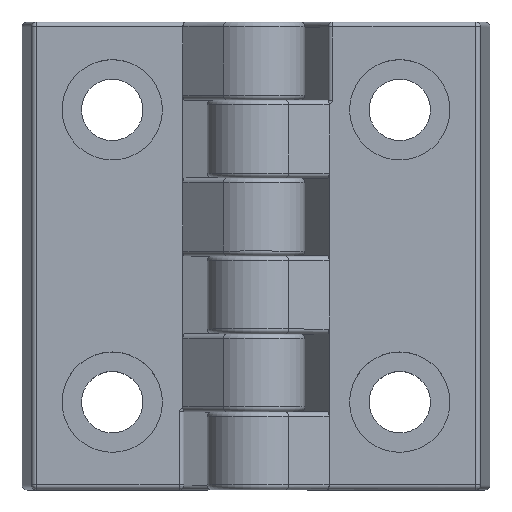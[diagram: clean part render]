
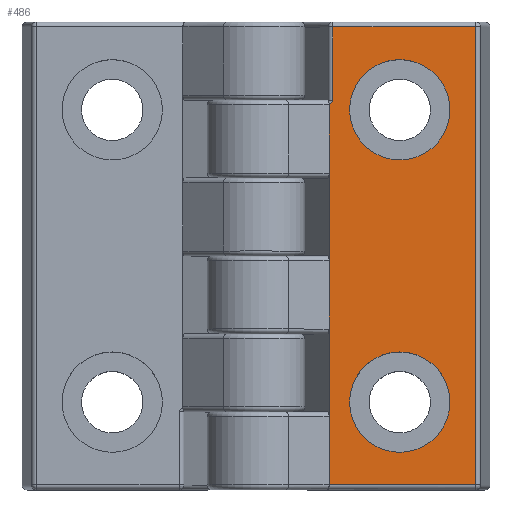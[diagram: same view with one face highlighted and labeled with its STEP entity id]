
A CAD part, top view. The second image highlights one B-rep face of the part: STEP entity #486.
In plain terms, the highlighted planar face has unit normal (0, 0, 1).
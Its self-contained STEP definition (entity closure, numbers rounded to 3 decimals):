
#486=ADVANCED_FACE('',(#1095,#1097,#1099),#1101,.T.);
#1095=FACE_BOUND('',#1096,.T.);
#1096=EDGE_LOOP('',(#1553,#1554,#1555,#1556,#1557,#1558,#1559,#1560,#1561,#1562));
#1097=FACE_BOUND('',#1098,.T.);
#1098=EDGE_LOOP('',(#1563));
#1099=FACE_BOUND('',#1100,.T.);
#1100=EDGE_LOOP('',(#1564));
#1101=PLANE('',#1102);
#1102=AXIS2_PLACEMENT_3D('',#1103,#1104,#1105);
#1103=CARTESIAN_POINT('',(-16.5,0.,10.1));
#1104=DIRECTION('',(0.,0.,1.));
#1105=DIRECTION('',(1.,0.,0.));
#1553=ORIENTED_EDGE('',*,*,#1768,.T.);
#1554=ORIENTED_EDGE('',*,*,#1769,.T.);
#1555=ORIENTED_EDGE('',*,*,#1770,.F.);
#1556=ORIENTED_EDGE('',*,*,#1732,.T.);
#1557=ORIENTED_EDGE('',*,*,#1771,.F.);
#1558=ORIENTED_EDGE('',*,*,#1722,.T.);
#1559=ORIENTED_EDGE('',*,*,#1772,.F.);
#1560=ORIENTED_EDGE('',*,*,#1755,.T.);
#1561=ORIENTED_EDGE('',*,*,#1752,.T.);
#1562=ORIENTED_EDGE('',*,*,#1749,.F.);
#1563=ORIENTED_EDGE('',*,*,#1745,.T.);
#1564=ORIENTED_EDGE('',*,*,#1746,.T.);
#1722=EDGE_CURVE('',#1887,#1884,#1888,.F.);
#1732=EDGE_CURVE('',#1905,#1902,#1906,.F.);
#1745=EDGE_CURVE('',#1927,#1927,#1928,.F.);
#1746=EDGE_CURVE('',#1929,#1929,#1930,.F.);
#1749=EDGE_CURVE('',#1931,#1934,#1935,.T.);
#1752=EDGE_CURVE('',#1938,#1934,#1939,.T.);
#1755=EDGE_CURVE('',#1942,#1938,#1943,.T.);
#1768=EDGE_CURVE('',#1931,#1961,#1962,.F.);
#1769=EDGE_CURVE('',#1961,#1963,#1964,.F.);
#1770=EDGE_CURVE('',#1905,#1963,#1965,.T.);
#1771=EDGE_CURVE('',#1887,#1902,#1966,.T.);
#1772=EDGE_CURVE('',#1942,#1884,#1967,.T.);
#1884=VERTEX_POINT('',#2193);
#1887=VERTEX_POINT('',#2199);
#1888=LINE('',#2200,#2201);
#1902=VERTEX_POINT('',#2235);
#1905=VERTEX_POINT('',#2241);
#1906=LINE('',#2242,#2243);
#1927=VERTEX_POINT('',#2294);
#1928=CIRCLE('',#2295,5.15);
#1929=VERTEX_POINT('',#2299);
#1930=CIRCLE('',#2300,5.15);
#1931=VERTEX_POINT('',#2304);
#1934=VERTEX_POINT('',#2313);
#1935=LINE('',#2314,#2315);
#1938=VERTEX_POINT('',#2325);
#1939=LINE('',#2326,#2327);
#1942=VERTEX_POINT('',#2337);
#1943=LINE('',#2338,#2339);
#1961=VERTEX_POINT('',#2389);
#1962=LINE('',#2390,#2391);
#1963=VERTEX_POINT('',#2393);
#1964=B_SPLINE_CURVE_WITH_KNOTS('',3,
(#2394,#2395,#2396,#2397,#2398,#2399,#2400,#2401,#2402,#2403,#2404,#2405,#2406,#2407,
#2408,#2409,#2410,#2411,#2412,#2413,#2414,#2415,#2416,#2417),
.UNSPECIFIED.,.F.,.F.,
(4,2,2,2,2,2,2,2,2,2,2,4),
(0.,0.027,0.128,0.229,0.329,0.428,
0.526,0.623,0.719,0.813,0.907,
1.),
.UNSPECIFIED.);
#1965=LINE('',#2418,#2419);
#1966=LINE('',#2421,#2422);
#1967=LINE('',#2424,#2425);
#2193=CARTESIAN_POINT('',(-16.5,7.5,10.1));
#2199=CARTESIAN_POINT('',(-16.5,16.5,10.1));
#2200=CARTESIAN_POINT('',(-16.5,7.5,10.1));
#2201=VECTOR('',#2202,1.);
#2202=DIRECTION('',(0.,1.,0.));
#2235=CARTESIAN_POINT('',(-16.5,23.5,10.1));
#2241=CARTESIAN_POINT('',(-16.5,32.5,10.1));
#2242=CARTESIAN_POINT('',(-16.5,23.5,10.1));
#2243=VECTOR('',#2244,1.);
#2244=DIRECTION('',(0.,1.,0.));
#2294=CARTESIAN_POINT('',(-9.249,14.15,10.1));
#2295=AXIS2_PLACEMENT_3D('',#2296,#2297,#2298);
#2296=CARTESIAN_POINT('',(-9.249,9.,10.1));
#2297=DIRECTION('',(0.,0.,1.));
#2298=DIRECTION('',(0.,1.,0.));
#2299=CARTESIAN_POINT('',(-9.249,44.15,10.1));
#2300=AXIS2_PLACEMENT_3D('',#2301,#2302,#2303);
#2301=CARTESIAN_POINT('',(-9.249,39.,10.1));
#2302=DIRECTION('',(0.,0.,1.));
#2303=DIRECTION('',(0.,1.,0.));
#2304=CARTESIAN_POINT('',(-16.127,47.5,10.1));
#2313=CARTESIAN_POINT('',(-1.453,47.5,10.1));
#2314=CARTESIAN_POINT('',(-16.127,47.5,10.1));
#2315=VECTOR('',#2316,1.);
#2316=DIRECTION('',(1.,0.,0.));
#2325=CARTESIAN_POINT('',(-1.453,0.5,10.1));
#2326=CARTESIAN_POINT('',(-1.453,0.5,10.1));
#2327=VECTOR('',#2328,1.);
#2328=DIRECTION('',(0.,1.,0.));
#2337=CARTESIAN_POINT('',(-16.5,0.5,10.1));
#2338=CARTESIAN_POINT('',(-16.5,0.5,10.1));
#2339=VECTOR('',#2340,1.);
#2340=DIRECTION('',(1.,0.,0.));
#2389=CARTESIAN_POINT('',(-16.127,39.973,10.1));
#2390=CARTESIAN_POINT('',(-16.127,39.973,10.1));
#2391=VECTOR('',#2392,1.);
#2392=DIRECTION('',(0.,1.,0.));
#2393=CARTESIAN_POINT('',(-16.5,39.5,10.1));
#2394=CARTESIAN_POINT('',(-16.5,39.5,10.1));
#2395=CARTESIAN_POINT('',(-16.494,39.506,10.1));
#2396=CARTESIAN_POINT('',(-16.489,39.511,10.1));
#2397=CARTESIAN_POINT('',(-16.462,39.537,10.1));
#2398=CARTESIAN_POINT('',(-16.441,39.558,10.1));
#2399=CARTESIAN_POINT('',(-16.401,39.6,10.1));
#2400=CARTESIAN_POINT('',(-16.381,39.62,10.1));
#2401=CARTESIAN_POINT('',(-16.344,39.66,10.1));
#2402=CARTESIAN_POINT('',(-16.326,39.679,10.1));
#2403=CARTESIAN_POINT('',(-16.292,39.717,10.1));
#2404=CARTESIAN_POINT('',(-16.276,39.735,10.1));
#2405=CARTESIAN_POINT('',(-16.247,39.77,10.1));
#2406=CARTESIAN_POINT('',(-16.233,39.787,10.1));
#2407=CARTESIAN_POINT('',(-16.209,39.819,10.1));
#2408=CARTESIAN_POINT('',(-16.197,39.835,10.1));
#2409=CARTESIAN_POINT('',(-16.177,39.863,10.1));
#2410=CARTESIAN_POINT('',(-16.168,39.876,10.1));
#2411=CARTESIAN_POINT('',(-16.153,39.901,10.1));
#2412=CARTESIAN_POINT('',(-16.147,39.913,10.1));
#2413=CARTESIAN_POINT('',(-16.137,39.933,10.1));
#2414=CARTESIAN_POINT('',(-16.133,39.943,10.1));
#2415=CARTESIAN_POINT('',(-16.128,39.959,10.1));
#2416=CARTESIAN_POINT('',(-16.128,39.966,10.1));
#2417=CARTESIAN_POINT('',(-16.127,39.973,10.1));
#2418=CARTESIAN_POINT('',(-16.5,32.5,10.1));
#2419=VECTOR('',#2420,1.);
#2420=DIRECTION('',(0.,1.,0.));
#2421=CARTESIAN_POINT('',(-16.5,16.5,10.1));
#2422=VECTOR('',#2423,1.);
#2423=DIRECTION('',(0.,1.,0.));
#2424=CARTESIAN_POINT('',(-16.5,0.5,10.1));
#2425=VECTOR('',#2426,1.);
#2426=DIRECTION('',(0.,1.,0.));
